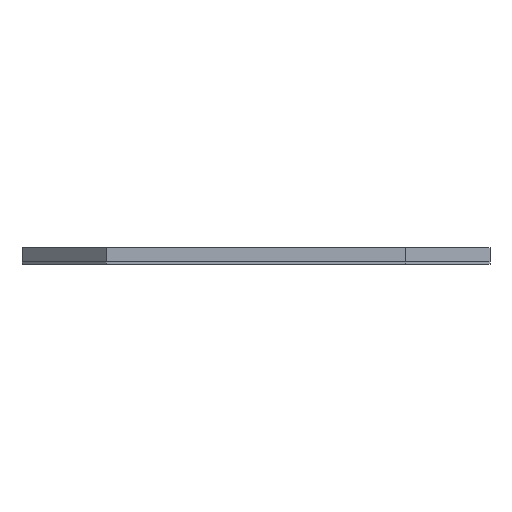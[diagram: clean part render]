
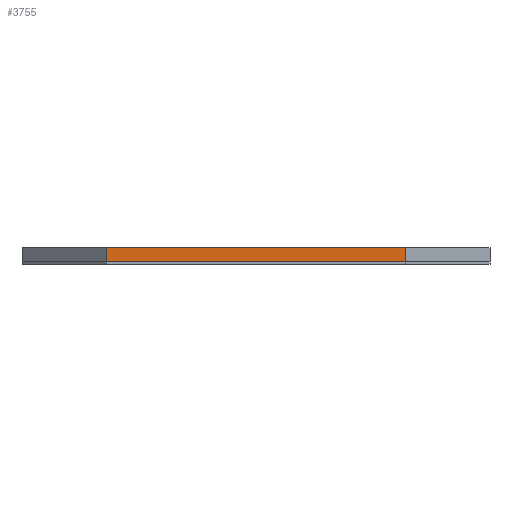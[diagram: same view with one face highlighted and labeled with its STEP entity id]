
A CAD part, left-side view. The second image highlights one B-rep face of the part: STEP entity #3755.
In plain terms, the highlighted planar face has unit normal (-1, 0, 0).
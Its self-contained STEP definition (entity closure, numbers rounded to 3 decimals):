
#243 = DIRECTION ( 'NONE',  ( 0., 0., -1. ) ) ;
#251 = VERTEX_POINT ( 'NONE', #2060 ) ;
#272 = VERTEX_POINT ( 'NONE', #1844 ) ;
#422 = CARTESIAN_POINT ( 'NONE',  ( -500., 500., 15. ) ) ;
#534 = VECTOR ( 'NONE', #243, 1000. ) ;
#547 = ORIENTED_EDGE ( 'NONE', *, *, #1034, .F. ) ;
#592 = LINE ( 'NONE', #422, #1603 ) ;
#637 = EDGE_CURVE ( 'NONE', #272, #1330, #592, .T. ) ;
#674 = AXIS2_PLACEMENT_3D ( 'NONE', #2880, #4060, #2822 ) ;
#841 = VECTOR ( 'NONE', #2519, 1000. ) ;
#878 = LINE ( 'NONE', #2507, #841 ) ;
#915 = LINE ( 'NONE', #3130, #534 ) ;
#938 = ORIENTED_EDGE ( 'NONE', *, *, #1299, .F. ) ;
#1034 = EDGE_CURVE ( 'NONE', #272, #2968, #878, .T. ) ;
#1299 = EDGE_CURVE ( 'NONE', #2968, #251, #3597, .T. ) ;
#1305 = DIRECTION ( 'NONE',  ( 0., 1., 0. ) ) ;
#1330 = VERTEX_POINT ( 'NONE', #1498 ) ;
#1498 = CARTESIAN_POINT ( 'NONE',  ( -500., 320., 15. ) ) ;
#1603 = VECTOR ( 'NONE', #3334, 1000. ) ;
#1810 = EDGE_LOOP ( 'NONE', ( #547, #2926, #1944, #938 ) ) ;
#1844 = CARTESIAN_POINT ( 'NONE',  ( -500., -320., 15. ) ) ;
#1944 = ORIENTED_EDGE ( 'NONE', *, *, #2400, .T. ) ;
#1983 = VECTOR ( 'NONE', #1305, 1000. ) ;
#2060 = CARTESIAN_POINT ( 'NONE',  ( -500., 320., -15. ) ) ;
#2400 = EDGE_CURVE ( 'NONE', #1330, #251, #915, .T. ) ;
#2507 = CARTESIAN_POINT ( 'NONE',  ( -500., -320., 15. ) ) ;
#2519 = DIRECTION ( 'NONE',  ( 0., 0., -1. ) ) ;
#2822 = DIRECTION ( 'NONE',  ( 0., 0., -1. ) ) ;
#2880 = CARTESIAN_POINT ( 'NONE',  ( -500., -500., 15. ) ) ;
#2926 = ORIENTED_EDGE ( 'NONE', *, *, #637, .T. ) ;
#2968 = VERTEX_POINT ( 'NONE', #4079 ) ;
#3130 = CARTESIAN_POINT ( 'NONE',  ( -500., 320., 15. ) ) ;
#3334 = DIRECTION ( 'NONE',  ( 0., 1., 0. ) ) ;
#3522 = PLANE ( 'NONE',  #674 ) ;
#3597 = LINE ( 'NONE', #3612, #1983 ) ;
#3612 = CARTESIAN_POINT ( 'NONE',  ( -500., -500., -15. ) ) ;
#3755 = ADVANCED_FACE ( 'NONE', ( #3905 ), #3522, .F. ) ;
#3905 = FACE_OUTER_BOUND ( 'NONE', #1810, .T. ) ;
#4060 = DIRECTION ( 'NONE',  ( 1., 0., 0. ) ) ;
#4079 = CARTESIAN_POINT ( 'NONE',  ( -500., -320., -15. ) ) ;
